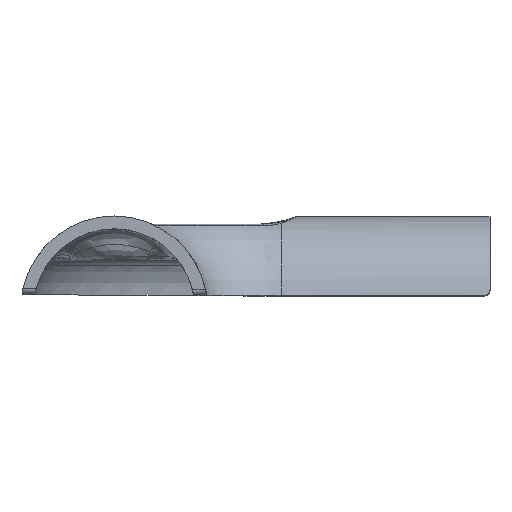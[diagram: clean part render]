
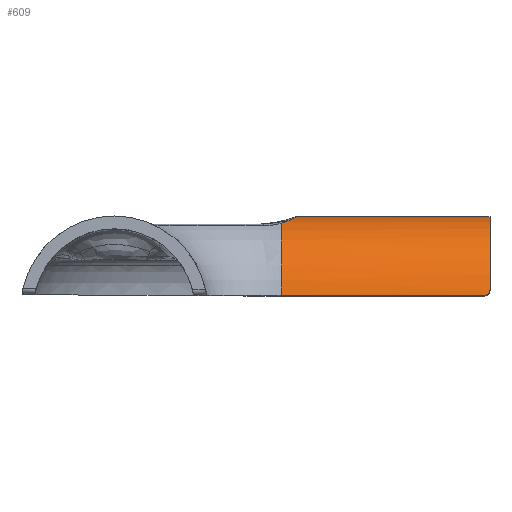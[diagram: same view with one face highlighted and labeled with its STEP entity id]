
A CAD part, top view. The second image highlights one B-rep face of the part: STEP entity #609.
In plain terms, the highlighted cylindrical face has radius 16.8 mm (diameter 33.6 mm), a partial arc.
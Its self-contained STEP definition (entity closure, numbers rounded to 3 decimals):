
#95 = CARTESIAN_POINT ( 'NONE',  ( 30.447, 15.74, -61.623 ) ) ;
#251 = CARTESIAN_POINT ( 'NONE',  ( 67.5, 3.699, -83.888 ) ) ;
#252 = EDGE_CURVE ( 'NONE', #3196, #3026, #2907, .T. ) ;
#256 = EDGE_CURVE ( 'NONE', #1286, #3196, #2051, .T. ) ;
#274 = CARTESIAN_POINT ( 'NONE',  ( 67.5, 3.828, -83.858 ) ) ;
#306 = EDGE_CURVE ( 'NONE', #3026, #402, #597, .T. ) ;
#335 = CARTESIAN_POINT ( 'NONE',  ( 30., 15.803, -73.202 ) ) ;
#361 = CARTESIAN_POINT ( 'NONE',  ( 67.375, 3.134, -50.994 ) ) ;
#370 = CARTESIAN_POINT ( 'NONE',  ( 30., 15.604, -61.274 ) ) ;
#402 = VERTEX_POINT ( 'NONE', #1869 ) ;
#480 = CARTESIAN_POINT ( 'NONE',  ( 31.381, 16.243, -71.798 ) ) ;
#495 = ORIENTED_EDGE ( 'NONE', *, *, #1268, .F. ) ;
#507 = VERTEX_POINT ( 'NONE', #335 ) ;
#597 = CIRCLE ( 'NONE', #1743, 16.8 ) ;
#609 = ADVANCED_FACE ( 'NONE', ( #1510 ), #3521, .T. ) ;
#642 = EDGE_LOOP ( 'NONE', ( #1162, #1058, #2182, #495, #1369, #1492, #3393, #2846 ) ) ;
#647 = DIRECTION ( 'NONE',  ( 0., 0., 1. ) ) ;
#651 = LINE ( 'NONE', #2987, #3361 ) ;
#728 = AXIS2_PLACEMENT_3D ( 'NONE', #2408, #1332, #786 ) ;
#763 = CARTESIAN_POINT ( 'NONE',  ( 32.49, 16.69, -69.5 ) ) ;
#778 = CARTESIAN_POINT ( 'NONE',  ( 32.786, 16.803, -67.51 ) ) ;
#786 = DIRECTION ( 'NONE',  ( 0., 0., 1. ) ) ;
#792 = CARTESIAN_POINT ( 'NONE',  ( 30.856, 16.056, -72.466 ) ) ;
#819 = CARTESIAN_POINT ( 'NONE',  ( 32.21, 16.462, -64.137 ) ) ;
#884 = AXIS2_PLACEMENT_3D ( 'NONE', #1298, #2598, #2872 ) ;
#918 = DIRECTION ( 'NONE',  ( -1., 0., 0. ) ) ;
#928 = CARTESIAN_POINT ( 'NONE',  ( 67.117, 2.84, -50.941 ) ) ;
#946 = CARTESIAN_POINT ( 'NONE',  ( 30.229, 15.67, -61.441 ) ) ;
#1038 = CARTESIAN_POINT ( 'NONE',  ( 32.77, 16.8, -67.801 ) ) ;
#1058 = ORIENTED_EDGE ( 'NONE', *, *, #2044, .T. ) ;
#1067 = CARTESIAN_POINT ( 'NONE',  ( 31.963, 16.469, -70.829 ) ) ;
#1080 = DIRECTION ( 'NONE',  ( 1., 0., 0. ) ) ;
#1106 = CARTESIAN_POINT ( 'NONE',  ( 67.375, 3.332, -83.967 ) ) ;
#1137 = B_SPLINE_CURVE_WITH_KNOTS ( 'NONE', 3,
 ( #274, #251, #2454, #1106, #1350, #3274, #3290, #2738 ),
 .UNSPECIFIED., .F., .F.,
 ( 4, 2, 2, 4 ),
 ( 0., 0., 0.001, 0.002 ),
 .UNSPECIFIED. ) ;
#1162 = ORIENTED_EDGE ( 'NONE', *, *, #306, .T. ) ;
#1195 = CARTESIAN_POINT ( 'NONE',  ( 67.5, 3.501, -51.068 ) ) ;
#1219 = CARTESIAN_POINT ( 'NONE',  ( 67.5, 0., -67.5 ) ) ;
#1248 = CARTESIAN_POINT ( 'NONE',  ( 66.5, 2.639, -50.909 ) ) ;
#1268 = EDGE_CURVE ( 'NONE', #507, #2144, #2310, .T. ) ;
#1282 = CIRCLE ( 'NONE', #728, 16.8 ) ;
#1286 = VERTEX_POINT ( 'NONE', #2054 ) ;
#1298 = CARTESIAN_POINT ( 'NONE',  ( 30., 0., -67.5 ) ) ;
#1330 = VECTOR ( 'NONE', #1472, 1000. ) ;
#1332 = DIRECTION ( 'NONE',  ( -1., 0., 0. ) ) ;
#1349 = CARTESIAN_POINT ( 'NONE',  ( 32.312, 16.613, -70.054 ) ) ;
#1350 = CARTESIAN_POINT ( 'NONE',  ( 67.302, 3.222, -83.988 ) ) ;
#1365 = CARTESIAN_POINT ( 'NONE',  ( 67.5, 3.631, -51.097 ) ) ;
#1369 = ORIENTED_EDGE ( 'NONE', *, *, #1503, .T. ) ;
#1458 = EDGE_CURVE ( 'NONE', #2144, #2040, #651, .T. ) ;
#1472 = DIRECTION ( 'NONE',  ( 1., 0., 0. ) ) ;
#1492 = ORIENTED_EDGE ( 'NONE', *, *, #2888, .F. ) ;
#1499 = CARTESIAN_POINT ( 'NONE',  ( 31.391, 16.088, -62.656 ) ) ;
#1503 = EDGE_CURVE ( 'NONE', #507, #1952, #3533, .T. ) ;
#1507 = CARTESIAN_POINT ( 'NONE',  ( 30., 15.604, -61.274 ) ) ;
#1510 = FACE_OUTER_BOUND ( 'NONE', #642, .T. ) ;
#1541 = CARTESIAN_POINT ( 'NONE',  ( 30., 0., -67.5 ) ) ;
#1616 = CARTESIAN_POINT ( 'NONE',  ( 32.312, 16.514, -64.401 ) ) ;
#1743 = AXIS2_PLACEMENT_3D ( 'NONE', #1219, #918, #647 ) ;
#1748 = CARTESIAN_POINT ( 'NONE',  ( 67.301, 3.023, -50.974 ) ) ;
#1757 = CARTESIAN_POINT ( 'NONE',  ( 31.042, 15.95, -62.22 ) ) ;
#1768 = DIRECTION ( 'NONE',  ( 1., 0., 0. ) ) ;
#1794 = CARTESIAN_POINT ( 'NONE',  ( 30.456, 15.926, -72.861 ) ) ;
#1869 = CARTESIAN_POINT ( 'NONE',  ( 67.5, 3.828, -83.858 ) ) ;
#1882 = CARTESIAN_POINT ( 'NONE',  ( 32.711, 16.78, -68.374 ) ) ;
#1952 = VERTEX_POINT ( 'NONE', #1507 ) ;
#2024 = CARTESIAN_POINT ( 'NONE',  ( 67.006, 2.766, -50.929 ) ) ;
#2030 = CARTESIAN_POINT ( 'NONE',  ( 31.845, 16.286, -63.37 ) ) ;
#2040 = VERTEX_POINT ( 'NONE', #3252 ) ;
#2044 = EDGE_CURVE ( 'NONE', #402, #2040, #1137, .T. ) ;
#2051 = LINE ( 'NONE', #2257, #1330 ) ;
#2054 = CARTESIAN_POINT ( 'NONE',  ( 30., 2.639, -50.909 ) ) ;
#2068 = DIRECTION ( 'NONE',  ( 0., 0., -1. ) ) ;
#2139 = CARTESIAN_POINT ( 'NONE',  ( 30., 15.803, -73.202 ) ) ;
#2144 = VERTEX_POINT ( 'NONE', #2198 ) ;
#2182 = ORIENTED_EDGE ( 'NONE', *, *, #1458, .F. ) ;
#2198 = CARTESIAN_POINT ( 'NONE',  ( 30., 2.837, -84.059 ) ) ;
#2257 = CARTESIAN_POINT ( 'NONE',  ( 30., 2.639, -50.909 ) ) ;
#2310 = CIRCLE ( 'NONE', #884, 16.8 ) ;
#2336 = CARTESIAN_POINT ( 'NONE',  ( 31.833, 16.416, -71.079 ) ) ;
#2404 = CARTESIAN_POINT ( 'NONE',  ( 32.667, 16.762, -68.657 ) ) ;
#2408 = CARTESIAN_POINT ( 'NONE',  ( 30., 0., -67.5 ) ) ;
#2454 = CARTESIAN_POINT ( 'NONE',  ( 67.475, 3.572, -83.916 ) ) ;
#2541 = CARTESIAN_POINT ( 'NONE',  ( 66.763, 2.665, -50.913 ) ) ;
#2598 = DIRECTION ( 'NONE',  ( -1., 0., 0. ) ) ;
#2688 = CARTESIAN_POINT ( 'NONE',  ( 32.788, 16.788, -66.64 ) ) ;
#2702 = CARTESIAN_POINT ( 'NONE',  ( 31.542, 16.303, -71.563 ) ) ;
#2738 = CARTESIAN_POINT ( 'NONE',  ( 66.5, 2.837, -84.059 ) ) ;
#2835 = CARTESIAN_POINT ( 'NONE',  ( 31.977, 16.348, -63.622 ) ) ;
#2839 = CARTESIAN_POINT ( 'NONE',  ( 66.633, 2.639, -50.909 ) ) ;
#2846 = ORIENTED_EDGE ( 'NONE', *, *, #252, .T. ) ;
#2872 = DIRECTION ( 'NONE',  ( 0., 0., 1. ) ) ;
#2888 = EDGE_CURVE ( 'NONE', #1286, #1952, #1282, .T. ) ;
#2907 = B_SPLINE_CURVE_WITH_KNOTS ( 'NONE', 3,
 ( #3071, #2839, #2541, #2024, #928, #1748, #361, #3083, #1195, #3097 ),
 .UNSPECIFIED., .F., .F.,
 ( 4, 2, 2, 2, 4 ),
 ( 0., 0., 0.001, 0.001, 0.002 ),
 .UNSPECIFIED. ) ;
#2962 = CARTESIAN_POINT ( 'NONE',  ( 32.559, 16.647, -65.223 ) ) ;
#2987 = CARTESIAN_POINT ( 'NONE',  ( 30., 2.837, -84.059 ) ) ;
#3026 = VERTEX_POINT ( 'NONE', #1365 ) ;
#3071 = CARTESIAN_POINT ( 'NONE',  ( 66.5, 2.639, -50.909 ) ) ;
#3083 = CARTESIAN_POINT ( 'NONE',  ( 67.474, 3.372, -51.041 ) ) ;
#3097 = CARTESIAN_POINT ( 'NONE',  ( 67.5, 3.631, -51.097 ) ) ;
#3098 = AXIS2_PLACEMENT_3D ( 'NONE', #1541, #1768, #2068 ) ;
#3116 = CARTESIAN_POINT ( 'NONE',  ( 30.853, 15.88, -62.013 ) ) ;
#3196 = VERTEX_POINT ( 'NONE', #1248 ) ;
#3237 = CARTESIAN_POINT ( 'NONE',  ( 32.486, 16.607, -64.944 ) ) ;
#3251 = CARTESIAN_POINT ( 'NONE',  ( 32.732, 16.749, -66.068 ) ) ;
#3252 = CARTESIAN_POINT ( 'NONE',  ( 66.5, 2.837, -84.059 ) ) ;
#3274 = CARTESIAN_POINT ( 'NONE',  ( 67.026, 2.947, -84.041 ) ) ;
#3290 = CARTESIAN_POINT ( 'NONE',  ( 66.766, 2.837, -84.059 ) ) ;
#3361 = VECTOR ( 'NONE', #1080, 1000. ) ;
#3393 = ORIENTED_EDGE ( 'NONE', *, *, #256, .T. ) ;
#3405 = CARTESIAN_POINT ( 'NONE',  ( 31.551, 16.156, -62.886 ) ) ;
#3521 = CYLINDRICAL_SURFACE ( 'NONE', #3098, 16.8 ) ;
#3533 = B_SPLINE_CURVE_WITH_KNOTS ( 'NONE', 3,
 ( #2139, #1794, #792, #480, #2702, #2336, #1067, #1349, #763, #2404, #1882, #1038, #778, #2688, #3251, #2962, #3237, #1616, #819, #2835, #2030, #3405, #1499, #1757, #3116, #95, #946, #370 ),
 .UNSPECIFIED., .F., .F.,
 ( 4, 2, 2, 2, 2, 2, 2, 2, 2, 2, 2, 2, 2, 4 ),
 ( 0., 0.002, 0.003, 0.003, 0.005, 0.006, 0.007, 0.009, 0.01, 0.01, 0.011, 0.012, 0.013, 0.014 ),
 .UNSPECIFIED. ) ;
